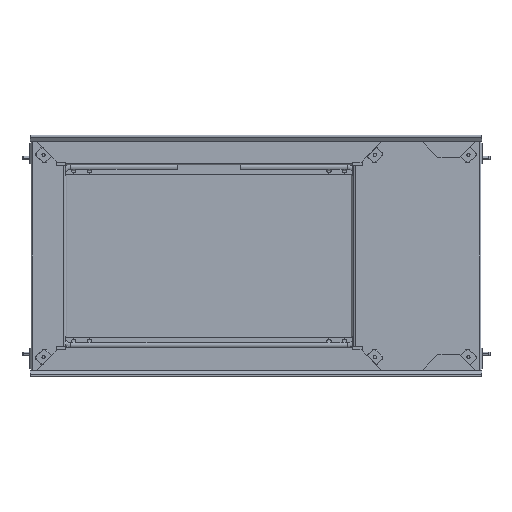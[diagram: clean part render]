
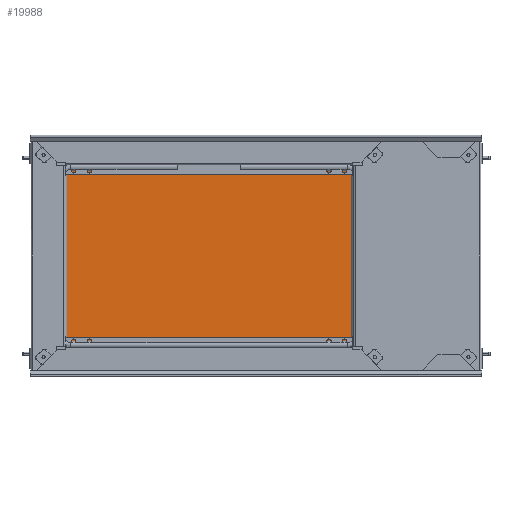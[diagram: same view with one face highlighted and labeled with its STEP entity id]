
A CAD part, front view. The second image highlights one B-rep face of the part: STEP entity #19988.
In plain terms, the highlighted planar face has unit normal (0, -1, 0).
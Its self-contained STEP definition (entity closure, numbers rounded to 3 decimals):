
#5162=DIRECTION('',(0.,0.,-1.));
#5163=VECTOR('',#5162,9.5);
#5164=CARTESIAN_POINT('',(335.507,32.,102.5));
#5165=LINE('',#5164,#5163);
#5166=DIRECTION('',(1.,0.,0.));
#5167=VECTOR('',#5166,171.993);
#5168=CARTESIAN_POINT('',(335.507,32.,93.));
#5169=LINE('',#5168,#5167);
#5170=CARTESIAN_POINT('',(507.5,32.,87.));
#5171=DIRECTION('',(0.,1.,0.));
#5172=DIRECTION('',(0.,0.,1.));
#5173=AXIS2_PLACEMENT_3D('',#5170,#5171,#5172);
#5175=DIRECTION('',(0.,0.,-1.));
#5176=VECTOR('',#5175,261.);
#5177=CARTESIAN_POINT('',(513.5,32.,87.));
#5178=LINE('',#5177,#5176);
#5179=CARTESIAN_POINT('',(507.5,32.,-174.));
#5180=DIRECTION('',(0.,1.,0.));
#5181=DIRECTION('',(1.,0.,0.));
#5182=AXIS2_PLACEMENT_3D('',#5179,#5180,#5181);
#5184=DIRECTION('',(-1.,0.,0.));
#5185=VECTOR('',#5184,444.);
#5186=CARTESIAN_POINT('',(507.5,32.,-180.));
#5187=LINE('',#5186,#5185);
#5188=CARTESIAN_POINT('',(63.5,32.,-174.));
#5189=DIRECTION('',(0.,1.,0.));
#5190=DIRECTION('',(0.,0.,-1.));
#5191=AXIS2_PLACEMENT_3D('',#5188,#5189,#5190);
#5193=DIRECTION('',(0.,0.,1.));
#5194=VECTOR('',#5193,261.);
#5195=CARTESIAN_POINT('',(57.5,32.,-174.));
#5196=LINE('',#5195,#5194);
#5197=CARTESIAN_POINT('',(63.5,32.,87.));
#5198=DIRECTION('',(0.,1.,0.));
#5199=DIRECTION('',(-1.,0.,0.));
#5200=AXIS2_PLACEMENT_3D('',#5197,#5198,#5199);
#5202=DIRECTION('',(1.,0.,0.));
#5203=VECTOR('',#5202,171.084);
#5204=CARTESIAN_POINT('',(63.5,32.,93.));
#5205=LINE('',#5204,#5203);
#5206=DIRECTION('',(0.,0.,-1.));
#5207=VECTOR('',#5206,9.5);
#5208=CARTESIAN_POINT('',(234.584,32.,102.5));
#5209=LINE('',#5208,#5207);
#5210=DIRECTION('',(1.,0.,0.));
#5211=VECTOR('',#5210,100.923);
#5212=CARTESIAN_POINT('',(234.584,32.,102.5));
#5213=LINE('',#5212,#5211);
#12313=CARTESIAN_POINT('',(335.507,32.,102.5));
#12315=VERTEX_POINT('',#12313);
#12317=CARTESIAN_POINT('',(234.584,32.,102.5));
#12319=VERTEX_POINT('',#12317);
#12321=CARTESIAN_POINT('',(335.507,32.,93.));
#12322=VERTEX_POINT('',#12321);
#12323=CARTESIAN_POINT('',(507.5,32.,93.));
#12324=VERTEX_POINT('',#12323);
#12325=CARTESIAN_POINT('',(513.5,32.,87.));
#12326=VERTEX_POINT('',#12325);
#12327=CARTESIAN_POINT('',(513.5,32.,-174.));
#12328=VERTEX_POINT('',#12327);
#12329=CARTESIAN_POINT('',(507.5,32.,-180.));
#12330=VERTEX_POINT('',#12329);
#12331=CARTESIAN_POINT('',(63.5,32.,-180.));
#12332=VERTEX_POINT('',#12331);
#12333=CARTESIAN_POINT('',(57.5,32.,-174.));
#12334=VERTEX_POINT('',#12333);
#12335=CARTESIAN_POINT('',(57.5,32.,87.));
#12336=VERTEX_POINT('',#12335);
#12337=CARTESIAN_POINT('',(63.5,32.,93.));
#12338=VERTEX_POINT('',#12337);
#12339=CARTESIAN_POINT('',(234.584,32.,93.));
#12340=VERTEX_POINT('',#12339);
#19959=CARTESIAN_POINT('',(541.,32.,-192.5));
#19960=DIRECTION('',(0.,1.,0.));
#19961=DIRECTION('',(0.,0.,1.));
#19962=AXIS2_PLACEMENT_3D('',#19959,#19960,#19961);
#19963=PLANE('',#19962);
#19964=ORIENTED_EDGE('',*,*,#19914,.T.);
#19966=ORIENTED_EDGE('',*,*,#19965,.T.);
#19968=ORIENTED_EDGE('',*,*,#19967,.T.);
#19970=ORIENTED_EDGE('',*,*,#19969,.T.);
#19972=ORIENTED_EDGE('',*,*,#19971,.T.);
#19974=ORIENTED_EDGE('',*,*,#19973,.T.);
#19976=ORIENTED_EDGE('',*,*,#19975,.T.);
#19978=ORIENTED_EDGE('',*,*,#19977,.T.);
#19980=ORIENTED_EDGE('',*,*,#19979,.T.);
#19982=ORIENTED_EDGE('',*,*,#19981,.T.);
#19984=ORIENTED_EDGE('',*,*,#19983,.F.);
#19985=ORIENTED_EDGE('',*,*,#19936,.T.);
#19986=EDGE_LOOP('',(#19964,#19966,#19968,#19970,#19972,#19974,#19976,#19978,
#19980,#19982,#19984,#19985));
#19987=FACE_OUTER_BOUND('',#19986,.F.);
#19988=ADVANCED_FACE('',(#19987),#19963,.F.);
#5174=CIRCLE('',#5173,6.);
#5183=CIRCLE('',#5182,6.);
#5192=CIRCLE('',#5191,6.);
#5201=CIRCLE('',#5200,6.);
#19914=EDGE_CURVE('',#12315,#12322,#5165,.T.);
#19936=EDGE_CURVE('',#12319,#12315,#5213,.T.);
#19965=EDGE_CURVE('',#12322,#12324,#5169,.T.);
#19967=EDGE_CURVE('',#12324,#12326,#5174,.T.);
#19969=EDGE_CURVE('',#12326,#12328,#5178,.T.);
#19971=EDGE_CURVE('',#12328,#12330,#5183,.T.);
#19973=EDGE_CURVE('',#12330,#12332,#5187,.T.);
#19975=EDGE_CURVE('',#12332,#12334,#5192,.T.);
#19977=EDGE_CURVE('',#12334,#12336,#5196,.T.);
#19979=EDGE_CURVE('',#12336,#12338,#5201,.T.);
#19981=EDGE_CURVE('',#12338,#12340,#5205,.T.);
#19983=EDGE_CURVE('',#12319,#12340,#5209,.T.);
